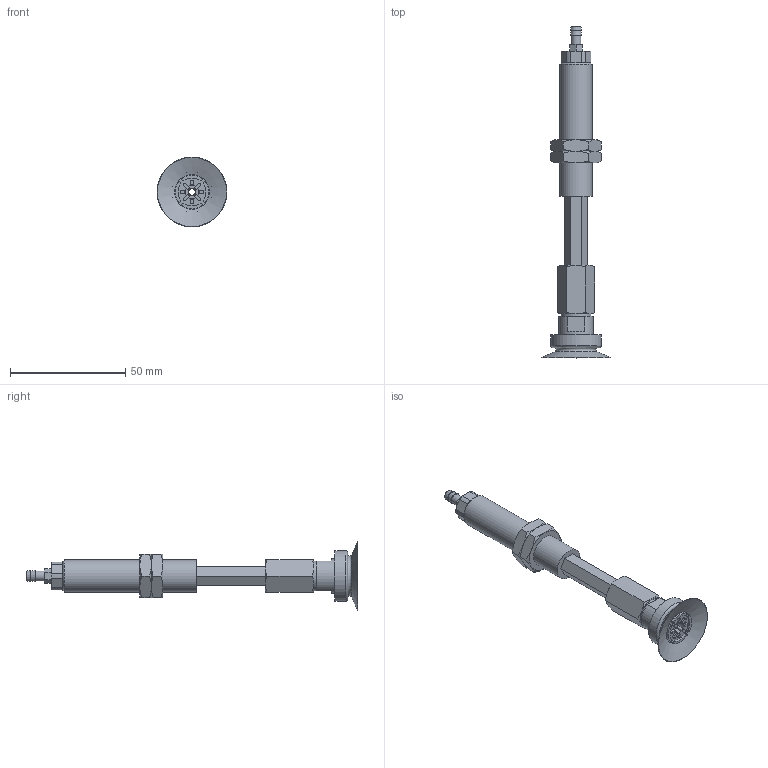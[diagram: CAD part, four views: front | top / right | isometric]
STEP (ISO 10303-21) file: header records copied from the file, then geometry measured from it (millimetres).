
FILE_DESCRIPTION(('STEP AP203'),'1');
FILE_NAME('-T.stp','2025-08-26T08:08:03',(' '),(' '),'Spatial InterOp 3D',' ',' ');
FILE_SCHEMA(('CONFIG_CONTROL_DESIGN'));
Length unit declared in the file: millimetre
Products named in the file (7): BNABPATH-30-30-※-T; NAPATH-30-30--M; ADAPTER; Nut-25-S; NAPATH-30-30--F; BPAG-30-※; T
Assembly tree (7 placements, depth 2):
  BNABPATH-30-30-※-T
    NAPATH-30-30--M
    ADAPTER
    Nut-25-S  x2
    NAPATH-30-30--F
    BPAG-30-※
    T
Bounding box: 30.3 x 144.2 x 30.3 mm (x, y, z)
Volume: 20126.7 mm3; surface area: 15244.9 mm2
Topology: 7 solids, 7 shells, 210 faces, 488 edges, 309 vertices
Faces by surface type: plane 101, cylinder 58, cone 49, torus 2
Full cylindrical faces by diameter (mm): 3 x4, 4.134 x1, 4.3 x1, 4.6 x1, 4.917 x1, 5 x1, 6 x1, 12.917 x2, 13 x1, 14 x1, 15 x1, 22 x1
Entity records: 5813 total; most frequent: CARTESIAN_POINT 1217, DIRECTION 915, ORIENTED_EDGE 816, EDGE_CURVE 408, AXIS2_PLACEMENT_3D 360, VERTEX_POINT 278, EDGE_LOOP 244, FACE_OUTER_BOUND 204
